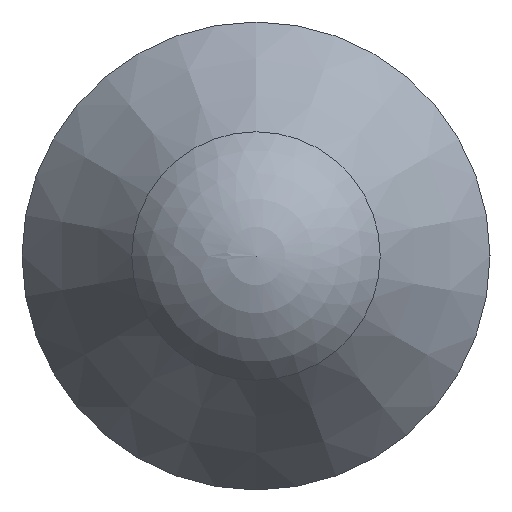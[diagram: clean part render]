
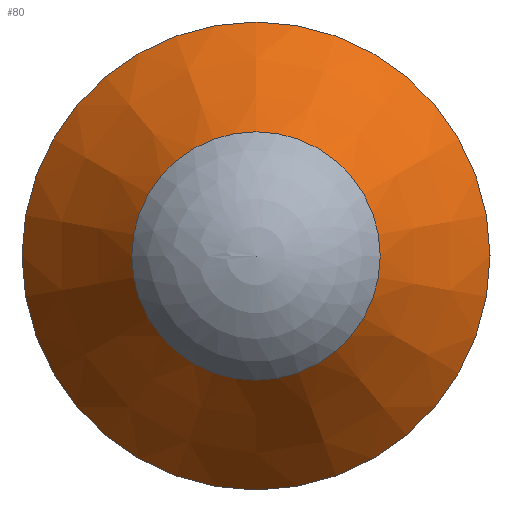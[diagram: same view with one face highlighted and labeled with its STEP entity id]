
A CAD part, left-side view. The second image highlights one B-rep face of the part: STEP entity #80.
In plain terms, the highlighted conical face has half-angle 35 degrees and reference radius 0.584 mm.
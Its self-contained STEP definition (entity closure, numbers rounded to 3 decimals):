
#80 = ADVANCED_FACE( '', ( #99, #100 ), #101, .T. );
#99 = FACE_OUTER_BOUND( '', #122, .T. );
#100 = FACE_BOUND( '', #123, .T. );
#101 = CONICAL_SURFACE( '', #124, 0.584, 0.611 );
#122 = EDGE_LOOP( '', ( #155 ) );
#123 = EDGE_LOOP( '', ( #156 ) );
#124 = AXIS2_PLACEMENT_3D( '', #157, #158, #159 );
#155 = ORIENTED_EDGE( '', *, *, #174, .F. );
#156 = ORIENTED_EDGE( '', *, *, #175, .T. );
#157 = CARTESIAN_POINT( '', ( 0.314, 0., 0. ) );
#158 = DIRECTION( '', ( 1., 0., 0. ) );
#159 = DIRECTION( '', ( 0., 0., -1. ) );
#174 = EDGE_CURVE( '', #187, #187, #188, .T. );
#175 = EDGE_CURVE( '', #189, #189, #190, .T. );
#187 = VERTEX_POINT( '', #201 );
#188 = CIRCLE( '', #202, 1.1 );
#189 = VERTEX_POINT( '', #203 );
#190 = CIRCLE( '', #204, 0.584 );
#201 = CARTESIAN_POINT( '', ( 1.051, 0., -1.1 ) );
#202 = AXIS2_PLACEMENT_3D( '', #220, #221, #222 );
#203 = CARTESIAN_POINT( '', ( 0.314, 0., -0.584 ) );
#204 = AXIS2_PLACEMENT_3D( '', #223, #224, #225 );
#220 = CARTESIAN_POINT( '', ( 1.051, 0., 0. ) );
#221 = DIRECTION( '', ( 1., 0., 0. ) );
#222 = DIRECTION( '', ( 0., 0., -1. ) );
#223 = CARTESIAN_POINT( '', ( 0.314, 0., 0. ) );
#224 = DIRECTION( '', ( 1., 0., 0. ) );
#225 = DIRECTION( '', ( 0., 0., -1. ) );
